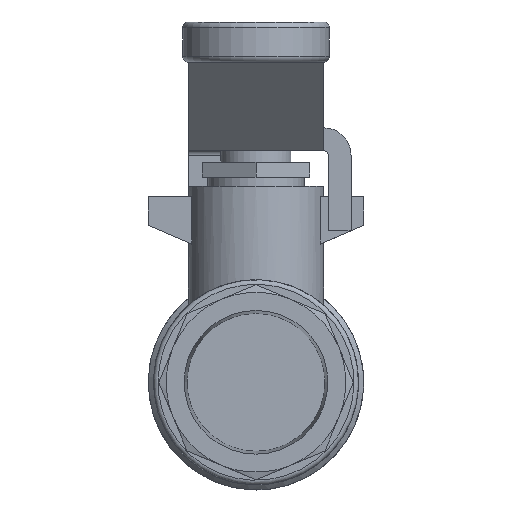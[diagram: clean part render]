
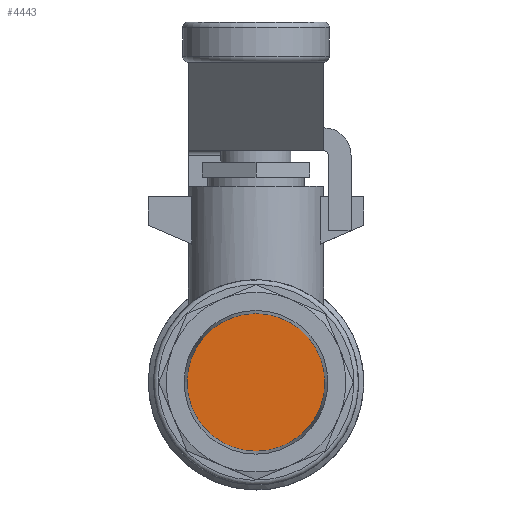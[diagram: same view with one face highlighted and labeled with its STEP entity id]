
A CAD part, left-side view. The second image highlights one B-rep face of the part: STEP entity #4443.
In plain terms, the highlighted free-form (B-spline) face has degree [1, 1] with [2, 2] control points.
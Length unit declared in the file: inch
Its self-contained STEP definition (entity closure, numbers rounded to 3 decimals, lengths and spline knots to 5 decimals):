
#4427=CARTESIAN_POINT('',(0.4067,0.3008,0.3008));
#4428=CARTESIAN_POINT('',(0.4067,-0.3008,0.3008));
#4429=CARTESIAN_POINT('',(0.4067,0.3008,-0.3008));
#4430=CARTESIAN_POINT('',(0.4067,-0.3008,-0.3008));
#4431=B_SPLINE_SURFACE_WITH_KNOTS('',1,1,((#4427,#4429),(#4428,#4430)),.UNSPECIFIED.,.F.,.F.,.U.,(2,2),(2,2),(0.0,0.6016),(0.0,0.6016),.UNSPECIFIED.);
#4432=CARTESIAN_POINT('',(0.4067,0.3008,0.0));
#4433=VERTEX_POINT('',#4432);
#4434=CARTESIAN_POINT('',(0.4067,0.0,0.0));
#4435=DIRECTION('',(1.0,0.0,0.0));
#4436=DIRECTION('',(0.0,1.0,0.0));
#4437=AXIS2_PLACEMENT_3D('',#4434,#4435,#4436);
#4438=CIRCLE('',#4437,0.3008);
#4439=EDGE_CURVE('',#4433,#4433,#4438,.T.);
#4440=ORIENTED_EDGE('',*,*,#4439,.F.);
#4441=EDGE_LOOP('',(#4440));
#4442=FACE_OUTER_BOUND('',#4441,.T.);
#4443=ADVANCED_FACE('',(#4442),#4431,.F.);
